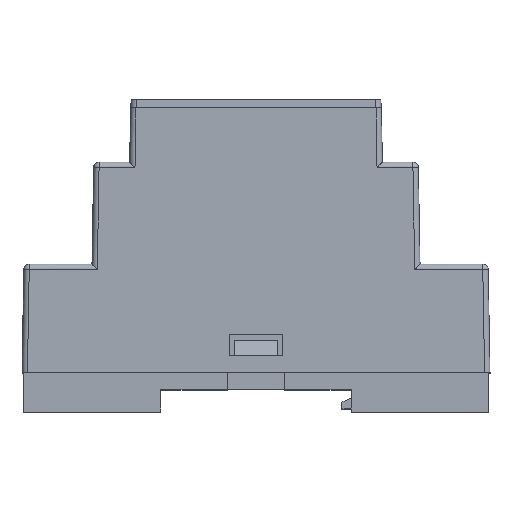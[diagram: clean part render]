
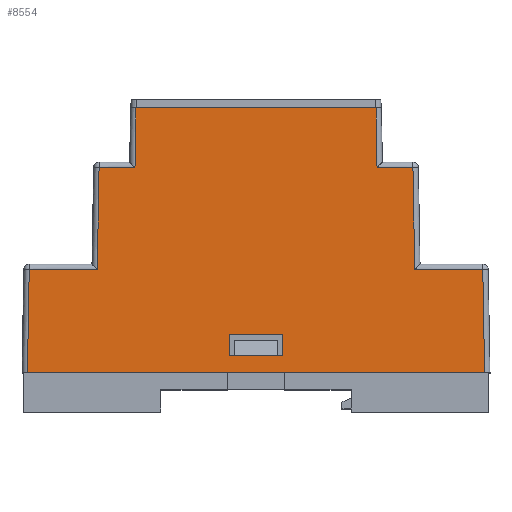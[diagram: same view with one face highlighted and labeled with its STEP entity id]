
A CAD part, top view. The second image highlights one B-rep face of the part: STEP entity #8554.
In plain terms, the highlighted planar face has unit normal (0, 0.009, 1).
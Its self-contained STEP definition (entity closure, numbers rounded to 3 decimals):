
#129 = CARTESIAN_POINT ( 'NONE',  ( 4.9, 3.1, 34.973 ) ) ;
#177 = AXIS2_PLACEMENT_3D ( 'NONE', #5602, #12857, #6563 ) ;
#334 = EDGE_CURVE ( 'NONE', #6347, #5003, #13422, .T. ) ;
#898 = ORIENTED_EDGE ( 'NONE', *, *, #4951, .T. ) ;
#1041 = VERTEX_POINT ( 'NONE', #11978 ) ;
#1107 = EDGE_LOOP ( 'NONE', ( #5459, #6572, #11545, #5500 ) ) ;
#1133 = CARTESIAN_POINT ( 'NONE',  ( -29.922, 37.809, 34.67 ) ) ;
#1213 = DIRECTION ( 'NONE',  ( -1., 0., 0. ) ) ;
#1226 = CARTESIAN_POINT ( 'NONE',  ( -43.15, 3.1, 34.973 ) ) ;
#1411 = VECTOR ( 'NONE', #1523, 1000. ) ;
#1506 = CARTESIAN_POINT ( 'NONE',  ( 41.818, 19.009, 34.834 ) ) ;
#1523 = DIRECTION ( 'NONE',  ( 1., 0., 0. ) ) ;
#1611 = VERTEX_POINT ( 'NONE', #8165 ) ;
#1697 = VECTOR ( 'NONE', #12182, 1000. ) ;
#1797 = LINE ( 'NONE', #3033, #1697 ) ;
#1860 = EDGE_CURVE ( 'NONE', #7661, #9673, #10905, .T. ) ;
#1918 = VECTOR ( 'NONE', #5379, 1000. ) ;
#2320 = ORIENTED_EDGE ( 'NONE', *, *, #12141, .T. ) ;
#2523 = VECTOR ( 'NONE', #10648, 1000. ) ;
#2550 = CARTESIAN_POINT ( 'NONE',  ( 22.125, 48.8, 34.574 ) ) ;
#2612 = EDGE_CURVE ( 'NONE', #9050, #11570, #11559, .T. ) ;
#2718 = EDGE_CURVE ( 'NONE', #10382, #6245, #1797, .T. ) ;
#2732 = DIRECTION ( 'NONE',  ( 0., -1., 0.009 ) ) ;
#2748 = LINE ( 'NONE', #11067, #5615 ) ;
#2802 = LINE ( 'NONE', #12215, #4124 ) ;
#2946 = CARTESIAN_POINT ( 'NONE',  ( 22.317, 37.809, 34.67 ) ) ;
#3033 = CARTESIAN_POINT ( 'NONE',  ( -42.801, 19.009, 34.834 ) ) ;
#3539 = CARTESIAN_POINT ( 'NONE',  ( 23.3, 37.809, 34.67 ) ) ;
#3548 = DIRECTION ( 'NONE',  ( -0.017, 1., -0.009 ) ) ;
#3791 = ORIENTED_EDGE ( 'NONE', *, *, #8660, .T. ) ;
#3921 = CARTESIAN_POINT ( 'NONE',  ( 4.9, 7.1, 34.938 ) ) ;
#4002 = DIRECTION ( 'NONE',  ( 0., 1., -0.009 ) ) ;
#4056 = CARTESIAN_POINT ( 'NONE',  ( 29.267, 19.009, 34.834 ) ) ;
#4061 = DIRECTION ( 'NONE',  ( -0.017, -1., 0.009 ) ) ;
#4090 = VECTOR ( 'NONE', #10631, 1000. ) ;
#4115 = VERTEX_POINT ( 'NONE', #6221 ) ;
#4124 = VECTOR ( 'NONE', #2732, 1000. ) ;
#4297 = VERTEX_POINT ( 'NONE', #5316 ) ;
#4454 = FACE_BOUND ( 'NONE', #1107, .T. ) ;
#4938 = VECTOR ( 'NONE', #3548, 1000. ) ;
#4951 = EDGE_CURVE ( 'NONE', #9673, #9050, #12788, .T. ) ;
#5003 = VERTEX_POINT ( 'NONE', #2550 ) ;
#5007 = CARTESIAN_POINT ( 'NONE',  ( 4.9, 0., 35. ) ) ;
#5316 = CARTESIAN_POINT ( 'NONE',  ( -28.939, 37.809, 34.67 ) ) ;
#5379 = DIRECTION ( 'NONE',  ( 1., 0., 0. ) ) ;
#5403 = DIRECTION ( 'NONE',  ( -1., 0., 0. ) ) ;
#5459 = ORIENTED_EDGE ( 'NONE', *, *, #5571, .F. ) ;
#5500 = ORIENTED_EDGE ( 'NONE', *, *, #8901, .F. ) ;
#5571 = EDGE_CURVE ( 'NONE', #1611, #7449, #2802, .T. ) ;
#5602 = CARTESIAN_POINT ( 'NONE',  ( -43.15, 0., 35. ) ) ;
#5615 = VECTOR ( 'NONE', #8986, 1000. ) ;
#5622 = VERTEX_POINT ( 'NONE', #129 ) ;
#5637 = ORIENTED_EDGE ( 'NONE', *, *, #5776, .T. ) ;
#5716 = CARTESIAN_POINT ( 'NONE',  ( 28.922, 38.783, 34.662 ) ) ;
#5776 = EDGE_CURVE ( 'NONE', #5003, #7379, #9637, .T. ) ;
#5961 = LINE ( 'NONE', #6031, #6750 ) ;
#6031 = CARTESIAN_POINT ( 'NONE',  ( -22.3, 38.783, 34.662 ) ) ;
#6221 = CARTESIAN_POINT ( 'NONE',  ( -22.317, 37.809, 34.67 ) ) ;
#6245 = VERTEX_POINT ( 'NONE', #13048 ) ;
#6252 = CARTESIAN_POINT ( 'NONE',  ( 22.126, 48.783, 34.574 ) ) ;
#6302 = VECTOR ( 'NONE', #12860, 1000. ) ;
#6347 = VERTEX_POINT ( 'NONE', #2946 ) ;
#6383 = DIRECTION ( 'NONE',  ( -1., 0., 0. ) ) ;
#6563 = DIRECTION ( 'NONE',  ( 0., -1., 0.009 ) ) ;
#6572 = ORIENTED_EDGE ( 'NONE', *, *, #6897, .F. ) ;
#6700 = PLANE ( 'NONE',  #177 ) ;
#6750 = VECTOR ( 'NONE', #4061, 1000. ) ;
#6897 = EDGE_CURVE ( 'NONE', #13037, #1611, #8419, .T. ) ;
#7351 = CARTESIAN_POINT ( 'NONE',  ( -29.267, 19.009, 34.834 ) ) ;
#7379 = VERTEX_POINT ( 'NONE', #8855 ) ;
#7449 = VERTEX_POINT ( 'NONE', #7912 ) ;
#7472 = VECTOR ( 'NONE', #12401, 1000. ) ;
#7568 = CARTESIAN_POINT ( 'NONE',  ( -42.15, 0., 35. ) ) ;
#7627 = LINE ( 'NONE', #5716, #4938 ) ;
#7648 = VECTOR ( 'NONE', #4002, 1000. ) ;
#7661 = VERTEX_POINT ( 'NONE', #7568 ) ;
#7702 = CARTESIAN_POINT ( 'NONE',  ( -42.15, -0.017, 35. ) ) ;
#7880 = LINE ( 'NONE', #3539, #11308 ) ;
#7912 = CARTESIAN_POINT ( 'NONE',  ( -4.9, 3.1, 34.973 ) ) ;
#7984 = EDGE_CURVE ( 'NONE', #7379, #4115, #5961, .T. ) ;
#8165 = CARTESIAN_POINT ( 'NONE',  ( -4.9, 7.1, 34.938 ) ) ;
#8311 = VECTOR ( 'NONE', #6383, 1000. ) ;
#8419 = LINE ( 'NONE', #12543, #12478 ) ;
#8436 = ORIENTED_EDGE ( 'NONE', *, *, #9411, .T. ) ;
#8467 = EDGE_LOOP ( 'NONE', ( #13344, #2320, #10463, #898, #11012, #11366, #8436, #12316, #5637, #11026, #12112, #3791 ) ) ;
#8554 = ADVANCED_FACE ( 'NONE', ( #4454, #12715 ), #6700, .T. ) ;
#8643 = VECTOR ( 'NONE', #5403, 1000. ) ;
#8660 = EDGE_CURVE ( 'NONE', #4297, #10382, #2748, .T. ) ;
#8855 = CARTESIAN_POINT ( 'NONE',  ( -22.125, 48.8, 34.574 ) ) ;
#8901 = EDGE_CURVE ( 'NONE', #7449, #5622, #12558, .T. ) ;
#8986 = DIRECTION ( 'NONE',  ( -0.017, -1., 0.009 ) ) ;
#9050 = VERTEX_POINT ( 'NONE', #1506 ) ;
#9411 = EDGE_CURVE ( 'NONE', #1041, #6347, #7880, .T. ) ;
#9637 = LINE ( 'NONE', #11723, #4090 ) ;
#9673 = VERTEX_POINT ( 'NONE', #12327 ) ;
#9700 = EDGE_CURVE ( 'NONE', #4115, #4297, #10553, .T. ) ;
#9842 = DIRECTION ( 'NONE',  ( -1., 0., 0. ) ) ;
#9871 = CARTESIAN_POINT ( 'NONE',  ( 41.801, 19.983, 34.826 ) ) ;
#10382 = VERTEX_POINT ( 'NONE', #7351 ) ;
#10463 = ORIENTED_EDGE ( 'NONE', *, *, #1860, .T. ) ;
#10500 = EDGE_CURVE ( 'NONE', #11570, #1041, #7627, .T. ) ;
#10553 = LINE ( 'NONE', #1133, #8311 ) ;
#10631 = DIRECTION ( 'NONE',  ( -1., 0., 0. ) ) ;
#10648 = DIRECTION ( 'NONE',  ( -0.017, -1., 0.009 ) ) ;
#10905 = LINE ( 'NONE', #13019, #1411 ) ;
#11012 = ORIENTED_EDGE ( 'NONE', *, *, #2612, .T. ) ;
#11026 = ORIENTED_EDGE ( 'NONE', *, *, #7984, .T. ) ;
#11067 = CARTESIAN_POINT ( 'NONE',  ( -29.25, 19.983, 34.826 ) ) ;
#11308 = VECTOR ( 'NONE', #9842, 1000. ) ;
#11366 = ORIENTED_EDGE ( 'NONE', *, *, #10500, .T. ) ;
#11545 = ORIENTED_EDGE ( 'NONE', *, *, #12706, .F. ) ;
#11559 = LINE ( 'NONE', #12652, #8643 ) ;
#11570 = VERTEX_POINT ( 'NONE', #4056 ) ;
#11723 = CARTESIAN_POINT ( 'NONE',  ( -23.125, 48.8, 34.574 ) ) ;
#11978 = CARTESIAN_POINT ( 'NONE',  ( 28.939, 37.809, 34.67 ) ) ;
#12112 = ORIENTED_EDGE ( 'NONE', *, *, #9700, .T. ) ;
#12141 = EDGE_CURVE ( 'NONE', #6245, #7661, #12699, .T. ) ;
#12182 = DIRECTION ( 'NONE',  ( -1., 0., 0. ) ) ;
#12215 = CARTESIAN_POINT ( 'NONE',  ( -4.9, 0., 35. ) ) ;
#12312 = LINE ( 'NONE', #5007, #7648 ) ;
#12316 = ORIENTED_EDGE ( 'NONE', *, *, #334, .T. ) ;
#12327 = CARTESIAN_POINT ( 'NONE',  ( 42.15, 0., 35. ) ) ;
#12401 = DIRECTION ( 'NONE',  ( -0.017, 1., -0.009 ) ) ;
#12478 = VECTOR ( 'NONE', #1213, 1000. ) ;
#12543 = CARTESIAN_POINT ( 'NONE',  ( -43.15, 7.1, 34.938 ) ) ;
#12558 = LINE ( 'NONE', #1226, #1918 ) ;
#12652 = CARTESIAN_POINT ( 'NONE',  ( 30.25, 19.009, 34.834 ) ) ;
#12699 = LINE ( 'NONE', #7702, #2523 ) ;
#12706 = EDGE_CURVE ( 'NONE', #5622, #13037, #12312, .T. ) ;
#12715 = FACE_OUTER_BOUND ( 'NONE', #8467, .T. ) ;
#12788 = LINE ( 'NONE', #9871, #6302 ) ;
#12857 = DIRECTION ( 'NONE',  ( 0., 0.009, 1. ) ) ;
#12860 = DIRECTION ( 'NONE',  ( -0.017, 1., -0.009 ) ) ;
#13019 = CARTESIAN_POINT ( 'NONE',  ( -43.15, 0., 35. ) ) ;
#13037 = VERTEX_POINT ( 'NONE', #3921 ) ;
#13048 = CARTESIAN_POINT ( 'NONE',  ( -41.818, 19.009, 34.834 ) ) ;
#13344 = ORIENTED_EDGE ( 'NONE', *, *, #2718, .T. ) ;
#13422 = LINE ( 'NONE', #6252, #7472 ) ;
